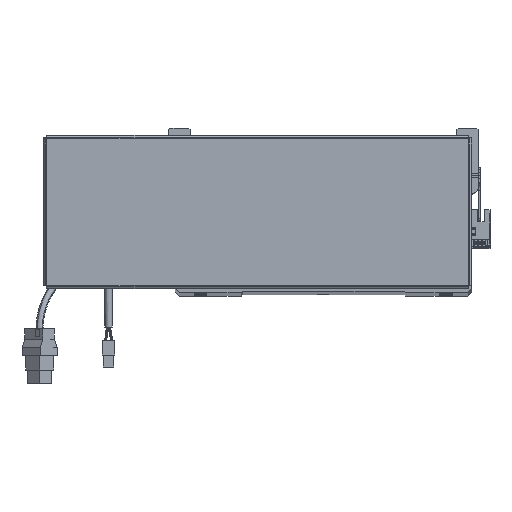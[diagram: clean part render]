
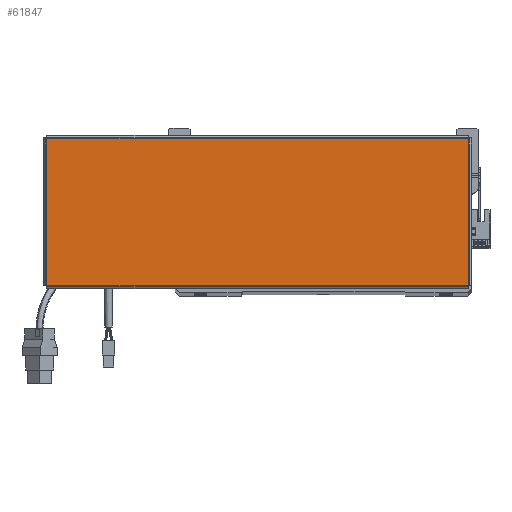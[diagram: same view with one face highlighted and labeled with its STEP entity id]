
A CAD part, top view. The second image highlights one B-rep face of the part: STEP entity #61847.
In plain terms, the highlighted planar face has unit normal (0, 0, 1).
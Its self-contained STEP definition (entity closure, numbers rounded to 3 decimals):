
#6265 = VECTOR ( 'NONE', #17707, 1000. ) ;
#7236 = VECTOR ( 'NONE', #38425, 1000. ) ;
#9024 = VECTOR ( 'NONE', #42529, 1000. ) ;
#9658 = VERTEX_POINT ( 'NONE', #21601 ) ;
#16172 = CARTESIAN_POINT ( 'NONE',  ( -156.513, -54.763, 0. ) ) ;
#17707 = DIRECTION ( 'NONE',  ( 1., 0., 0. ) ) ;
#21601 = CARTESIAN_POINT ( 'NONE',  ( -156.513, 54.763, 0. ) ) ;
#21658 = EDGE_LOOP ( 'NONE', ( #51659, #63268, #70919, #21845 ) ) ;
#21845 = ORIENTED_EDGE ( 'NONE', *, *, #47348, .T. ) ;
#22708 = EDGE_CURVE ( 'NONE', #65954, #59222, #70013, .T. ) ;
#23394 = LINE ( 'NONE', #71774, #43406 ) ;
#35136 = LINE ( 'NONE', #44476, #7236 ) ;
#35913 = LINE ( 'NONE', #56306, #6265 ) ;
#38414 = DIRECTION ( 'NONE',  ( -1., 0., 0. ) ) ;
#38425 = DIRECTION ( 'NONE',  ( 0., -1., 0. ) ) ;
#41184 = DIRECTION ( 'NONE',  ( 0., 0., 1. ) ) ;
#42529 = DIRECTION ( 'NONE',  ( 0., 1., 0. ) ) ;
#43406 = VECTOR ( 'NONE', #38414, 1000. ) ;
#43672 = VERTEX_POINT ( 'NONE', #16172 ) ;
#44476 = CARTESIAN_POINT ( 'NONE',  ( -156.513, 54.793, 0. ) ) ;
#47348 = EDGE_CURVE ( 'NONE', #9658, #43672, #35136, .T. ) ;
#51458 = AXIS2_PLACEMENT_3D ( 'NONE', #58145, #41184, #63551 ) ;
#51659 = ORIENTED_EDGE ( 'NONE', *, *, #59257, .T. ) ;
#52150 = FACE_OUTER_BOUND ( 'NONE', #21658, .T. ) ;
#52692 = CARTESIAN_POINT ( 'NONE',  ( 156.513, -54.793, 0. ) ) ;
#55855 = CARTESIAN_POINT ( 'NONE',  ( 156.513, 54.763, 0. ) ) ;
#56306 = CARTESIAN_POINT ( 'NONE',  ( -156.543, -54.763, 0. ) ) ;
#57899 = PLANE ( 'NONE',  #51458 ) ;
#58145 = CARTESIAN_POINT ( 'NONE',  ( 0., 0., 0. ) ) ;
#59222 = VERTEX_POINT ( 'NONE', #55855 ) ;
#59257 = EDGE_CURVE ( 'NONE', #43672, #65954, #35913, .T. ) ;
#61847 = ADVANCED_FACE ( 'NONE', ( #52150 ), #57899, .T. ) ;
#63268 = ORIENTED_EDGE ( 'NONE', *, *, #22708, .T. ) ;
#63551 = DIRECTION ( 'NONE',  ( 1., 0., 0. ) ) ;
#65954 = VERTEX_POINT ( 'NONE', #68777 ) ;
#68039 = EDGE_CURVE ( 'NONE', #59222, #9658, #23394, .T. ) ;
#68777 = CARTESIAN_POINT ( 'NONE',  ( 156.513, -54.763, 0. ) ) ;
#70013 = LINE ( 'NONE', #52692, #9024 ) ;
#70919 = ORIENTED_EDGE ( 'NONE', *, *, #68039, .T. ) ;
#71774 = CARTESIAN_POINT ( 'NONE',  ( 156.543, 54.763, 0. ) ) ;
